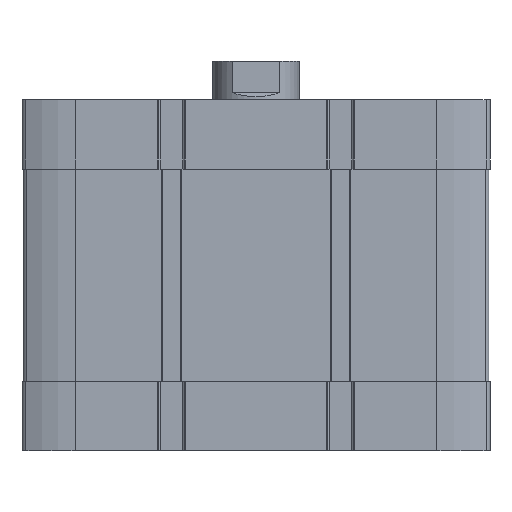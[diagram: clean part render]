
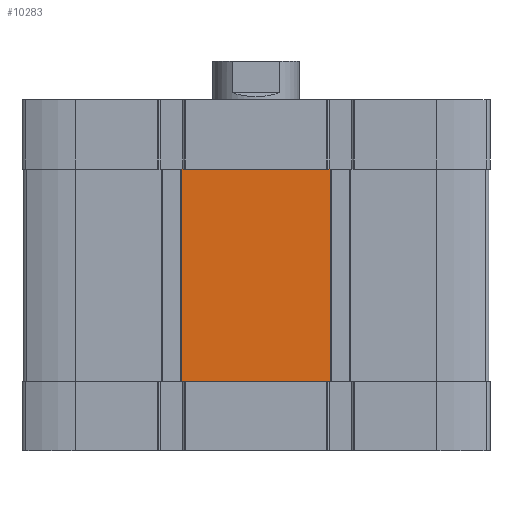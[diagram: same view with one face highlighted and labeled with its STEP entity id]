
A CAD part, front view. The second image highlights one B-rep face of the part: STEP entity #10283.
In plain terms, the highlighted planar face has unit normal (0, -1, 0).
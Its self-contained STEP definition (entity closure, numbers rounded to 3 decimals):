
#137 = VECTOR ( 'NONE', #4038, 1000. ) ;
#199 = DIRECTION ( 'NONE',  ( 1., 0., 0. ) ) ;
#440 = AXIS2_PLACEMENT_3D ( 'NONE', #3284, #9700, #7197 ) ;
#529 = CARTESIAN_POINT ( 'NONE',  ( -21.3, -67., -20. ) ) ;
#1587 = VECTOR ( 'NONE', #13594, 1000. ) ;
#1817 = VERTEX_POINT ( 'NONE', #3346 ) ;
#1883 = FACE_OUTER_BOUND ( 'NONE', #4600, .T. ) ;
#2039 = VECTOR ( 'NONE', #199, 1000. ) ;
#2678 = DIRECTION ( 'NONE',  ( 0., 0., 1. ) ) ;
#2880 = LINE ( 'NONE', #8191, #9790 ) ;
#2900 = CARTESIAN_POINT ( 'NONE',  ( -21.3, -67., -81. ) ) ;
#3092 = CARTESIAN_POINT ( 'NONE',  ( 20.687, -67., -81. ) ) ;
#3284 = CARTESIAN_POINT ( 'NONE',  ( -67., -67., -81. ) ) ;
#3346 = CARTESIAN_POINT ( 'NONE',  ( 20.687, -67., -20. ) ) ;
#3398 = EDGE_CURVE ( 'NONE', #7959, #12604, #5620, .T. ) ;
#3721 = ORIENTED_EDGE ( 'NONE', *, *, #3398, .T. ) ;
#3786 = CARTESIAN_POINT ( 'NONE',  ( -67., -67., -81. ) ) ;
#4038 = DIRECTION ( 'NONE',  ( 1., 0., 0. ) ) ;
#4274 = DIRECTION ( 'NONE',  ( 1., 0., 0. ) ) ;
#4536 = LINE ( 'NONE', #7331, #7838 ) ;
#4600 = EDGE_LOOP ( 'NONE', ( #4611, #14921, #7777, #5647, #3721, #12202, #5766, #10404 ) ) ;
#4611 = ORIENTED_EDGE ( 'NONE', *, *, #15028, .F. ) ;
#4623 = DIRECTION ( 'NONE',  ( 1., 0., 0. ) ) ;
#4637 = DIRECTION ( 'NONE',  ( 1., 0., 0. ) ) ;
#4906 = VECTOR ( 'NONE', #5444, 1000. ) ;
#5331 = LINE ( 'NONE', #9416, #137 ) ;
#5444 = DIRECTION ( 'NONE',  ( 1., 0., 0. ) ) ;
#5620 = LINE ( 'NONE', #14857, #12792 ) ;
#5647 = ORIENTED_EDGE ( 'NONE', *, *, #8329, .T. ) ;
#5766 = ORIENTED_EDGE ( 'NONE', *, *, #11611, .F. ) ;
#6354 = EDGE_CURVE ( 'NONE', #13975, #12426, #4536, .T. ) ;
#6949 = CARTESIAN_POINT ( 'NONE',  ( -20.687, -67., -20. ) ) ;
#7010 = PLANE ( 'NONE',  #440 ) ;
#7197 = DIRECTION ( 'NONE',  ( 0., 0., -1. ) ) ;
#7231 = LINE ( 'NONE', #8869, #9543 ) ;
#7331 = CARTESIAN_POINT ( 'NONE',  ( -67., -67., -81. ) ) ;
#7777 = ORIENTED_EDGE ( 'NONE', *, *, #16616, .T. ) ;
#7838 = VECTOR ( 'NONE', #4637, 1000. ) ;
#7913 = CARTESIAN_POINT ( 'NONE',  ( -20.687, -67., -81. ) ) ;
#7959 = VERTEX_POINT ( 'NONE', #17199 ) ;
#8191 = CARTESIAN_POINT ( 'NONE',  ( -21.3, -67., -81. ) ) ;
#8329 = EDGE_CURVE ( 'NONE', #13609, #7959, #15938, .T. ) ;
#8801 = VERTEX_POINT ( 'NONE', #529 ) ;
#8869 = CARTESIAN_POINT ( 'NONE',  ( -67., -67., -20. ) ) ;
#8935 = EDGE_CURVE ( 'NONE', #1817, #12604, #7231, .T. ) ;
#9416 = CARTESIAN_POINT ( 'NONE',  ( -21.3, -67., -20. ) ) ;
#9543 = VECTOR ( 'NONE', #4623, 1000. ) ;
#9591 = CARTESIAN_POINT ( 'NONE',  ( -21.3, -67., -81. ) ) ;
#9700 = DIRECTION ( 'NONE',  ( 0., -1., 0. ) ) ;
#9790 = VECTOR ( 'NONE', #4274, 1000. ) ;
#10283 = ADVANCED_FACE ( 'NONE', ( #1883 ), #7010, .T. ) ;
#10404 = ORIENTED_EDGE ( 'NONE', *, *, #14643, .F. ) ;
#11611 = EDGE_CURVE ( 'NONE', #15996, #1817, #5331, .T. ) ;
#12036 = CARTESIAN_POINT ( 'NONE',  ( -67., -67., -20. ) ) ;
#12202 = ORIENTED_EDGE ( 'NONE', *, *, #8935, .F. ) ;
#12426 = VERTEX_POINT ( 'NONE', #7913 ) ;
#12604 = VERTEX_POINT ( 'NONE', #12914 ) ;
#12792 = VECTOR ( 'NONE', #2678, 1000. ) ;
#12914 = CARTESIAN_POINT ( 'NONE',  ( 21.3, -67., -20. ) ) ;
#13509 = LINE ( 'NONE', #9591, #1587 ) ;
#13534 = LINE ( 'NONE', #12036, #4906 ) ;
#13594 = DIRECTION ( 'NONE',  ( 0., 0., 1. ) ) ;
#13609 = VERTEX_POINT ( 'NONE', #3092 ) ;
#13975 = VERTEX_POINT ( 'NONE', #2900 ) ;
#14643 = EDGE_CURVE ( 'NONE', #8801, #15996, #13534, .T. ) ;
#14857 = CARTESIAN_POINT ( 'NONE',  ( 21.3, -67., -81. ) ) ;
#14921 = ORIENTED_EDGE ( 'NONE', *, *, #6354, .T. ) ;
#15028 = EDGE_CURVE ( 'NONE', #13975, #8801, #13509, .T. ) ;
#15938 = LINE ( 'NONE', #3786, #2039 ) ;
#15996 = VERTEX_POINT ( 'NONE', #6949 ) ;
#16616 = EDGE_CURVE ( 'NONE', #12426, #13609, #2880, .T. ) ;
#17199 = CARTESIAN_POINT ( 'NONE',  ( 21.3, -67., -81. ) ) ;
